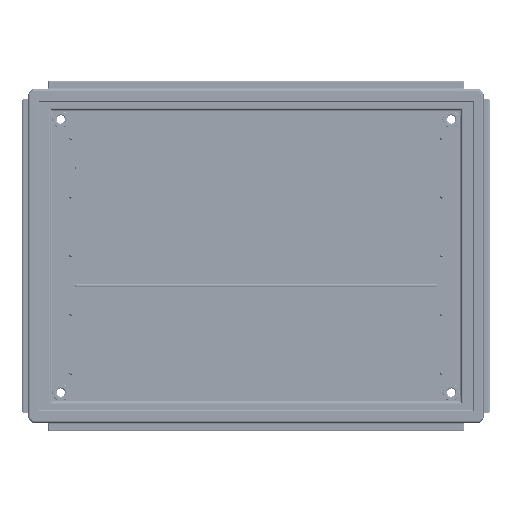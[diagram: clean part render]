
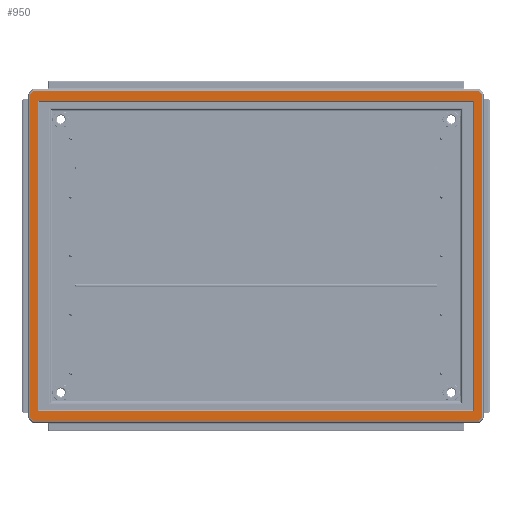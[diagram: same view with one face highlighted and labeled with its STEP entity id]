
A CAD part, front view. The second image highlights one B-rep face of the part: STEP entity #950.
In plain terms, the highlighted planar face has unit normal (0, -1, 0).
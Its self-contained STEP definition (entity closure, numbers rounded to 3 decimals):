
#950=ADVANCED_FACE('',(#33787,#33789),#33791,.T.);
#33787=FACE_BOUND('',#33788,.T.);
#33788=EDGE_LOOP('',(#115007,#115008,#115009,#115010,#115011,#115012,#115013,#115014));
#33789=FACE_BOUND('',#33790,.T.);
#33790=EDGE_LOOP('',(#115015,#115016,#115017,#115018));
#33791=PLANE('',#33792);
#33792=AXIS2_PLACEMENT_3D('',#33793,#33794,#33795);
#33793=CARTESIAN_POINT('',(262.2,0.,-564.9));
#33794=DIRECTION('',(0.,-1.,0.));
#33795=DIRECTION('',(0.,0.,1.));
#115007=ORIENTED_EDGE('',*,*,#162437,.F.);
#115008=ORIENTED_EDGE('',*,*,#162438,.F.);
#115009=ORIENTED_EDGE('',*,*,#162439,.T.);
#115010=ORIENTED_EDGE('',*,*,#162440,.T.);
#115011=ORIENTED_EDGE('',*,*,#162441,.F.);
#115012=ORIENTED_EDGE('',*,*,#162442,.T.);
#115013=ORIENTED_EDGE('',*,*,#162443,.T.);
#115014=ORIENTED_EDGE('',*,*,#162444,.F.);
#115015=ORIENTED_EDGE('',*,*,#162445,.T.);
#115016=ORIENTED_EDGE('',*,*,#162446,.T.);
#115017=ORIENTED_EDGE('',*,*,#162447,.F.);
#115018=ORIENTED_EDGE('',*,*,#162448,.T.);
#162437=EDGE_CURVE('',#186248,#186249,#186250,.T.);
#162438=EDGE_CURVE('',#186251,#186248,#186252,.T.);
#162439=EDGE_CURVE('',#186251,#186253,#186254,.T.);
#162440=EDGE_CURVE('',#186253,#186255,#186256,.T.);
#162441=EDGE_CURVE('',#186257,#186255,#186258,.T.);
#162442=EDGE_CURVE('',#186257,#186259,#186260,.T.);
#162443=EDGE_CURVE('',#186259,#186261,#186262,.T.);
#162444=EDGE_CURVE('',#186249,#186261,#186263,.T.);
#162445=EDGE_CURVE('',#186264,#186265,#186266,.T.);
#162446=EDGE_CURVE('',#186265,#186267,#186268,.T.);
#162447=EDGE_CURVE('',#186269,#186267,#186270,.T.);
#162448=EDGE_CURVE('',#186269,#186264,#186271,.T.);
#186248=VERTEX_POINT('',#227172);
#186249=VERTEX_POINT('',#227173);
#186250=LINE('',#227174,#227175);
#186251=VERTEX_POINT('',#227177);
#186252=LINE('',#227178,#227179);
#186253=VERTEX_POINT('',#227181);
#186254=LINE('',#227182,#227183);
#186255=VERTEX_POINT('',#227185);
#186256=LINE('',#227186,#227187);
#186257=VERTEX_POINT('',#227189);
#186258=LINE('',#227190,#227191);
#186259=VERTEX_POINT('',#227193);
#186260=LINE('',#227194,#227195);
#186261=VERTEX_POINT('',#227197);
#186262=LINE('',#227198,#227199);
#186263=LINE('',#227201,#227202);
#186264=VERTEX_POINT('',#227204);
#186265=VERTEX_POINT('',#227205);
#186266=LINE('',#227206,#227207);
#186267=VERTEX_POINT('',#227209);
#186268=LINE('',#227210,#227211);
#186269=VERTEX_POINT('',#227213);
#186270=LINE('',#227214,#227215);
#186271=LINE('',#227217,#227218);
#227172=CARTESIAN_POINT('',(366.716,0.,-3.1));
#227173=CARTESIAN_POINT('',(371.9,0.,-8.284));
#227174=CARTESIAN_POINT('',(366.716,0.,-3.1));
#227175=VECTOR('',#227176,1.);
#227176=DIRECTION('',(0.707,0.,-0.707));
#227177=CARTESIAN_POINT('',(-391.716,0.,-3.1));
#227178=CARTESIAN_POINT('',(-391.716,0.,-3.1));
#227179=VECTOR('',#227180,1.);
#227180=DIRECTION('',(1.,0.,0.));
#227181=CARTESIAN_POINT('',(-396.9,0.,-8.284));
#227182=CARTESIAN_POINT('',(-391.716,0.,-3.1));
#227183=VECTOR('',#227184,1.);
#227184=DIRECTION('',(-0.707,0.,-0.707));
#227185=CARTESIAN_POINT('',(-396.9,0.,-559.716));
#227186=CARTESIAN_POINT('',(-396.9,0.,-8.284));
#227187=VECTOR('',#227188,1.);
#227188=DIRECTION('',(0.,0.,-1.));
#227189=CARTESIAN_POINT('',(-391.716,0.,-564.9));
#227190=CARTESIAN_POINT('',(-391.716,0.,-564.9));
#227191=VECTOR('',#227192,1.);
#227192=DIRECTION('',(-0.707,0.,0.707));
#227193=CARTESIAN_POINT('',(366.716,0.,-564.9));
#227194=CARTESIAN_POINT('',(-391.716,0.,-564.9));
#227195=VECTOR('',#227196,1.);
#227196=DIRECTION('',(1.,0.,0.));
#227197=CARTESIAN_POINT('',(371.9,0.,-559.716));
#227198=CARTESIAN_POINT('',(366.716,0.,-564.9));
#227199=VECTOR('',#227200,1.);
#227200=DIRECTION('',(0.707,0.,0.707));
#227201=CARTESIAN_POINT('',(371.9,0.,-8.284));
#227202=VECTOR('',#227203,1.);
#227203=DIRECTION('',(0.,0.,-1.));
#227204=CARTESIAN_POINT('',(-383.591,0.,-19.899));
#227205=CARTESIAN_POINT('',(358.591,0.,-19.899));
#227206=CARTESIAN_POINT('',(-383.591,0.,-19.899));
#227207=VECTOR('',#227208,1.);
#227208=DIRECTION('',(1.,0.,0.));
#227209=CARTESIAN_POINT('',(358.591,0.,-548.101));
#227210=CARTESIAN_POINT('',(358.591,0.,-19.899));
#227211=VECTOR('',#227212,1.);
#227212=DIRECTION('',(0.,0.,-1.));
#227213=CARTESIAN_POINT('',(-383.591,0.,-548.101));
#227214=CARTESIAN_POINT('',(-383.591,0.,-548.101));
#227215=VECTOR('',#227216,1.);
#227216=DIRECTION('',(1.,0.,0.));
#227217=CARTESIAN_POINT('',(-383.591,0.,-548.101));
#227218=VECTOR('',#227219,1.);
#227219=DIRECTION('',(0.,0.,1.));
